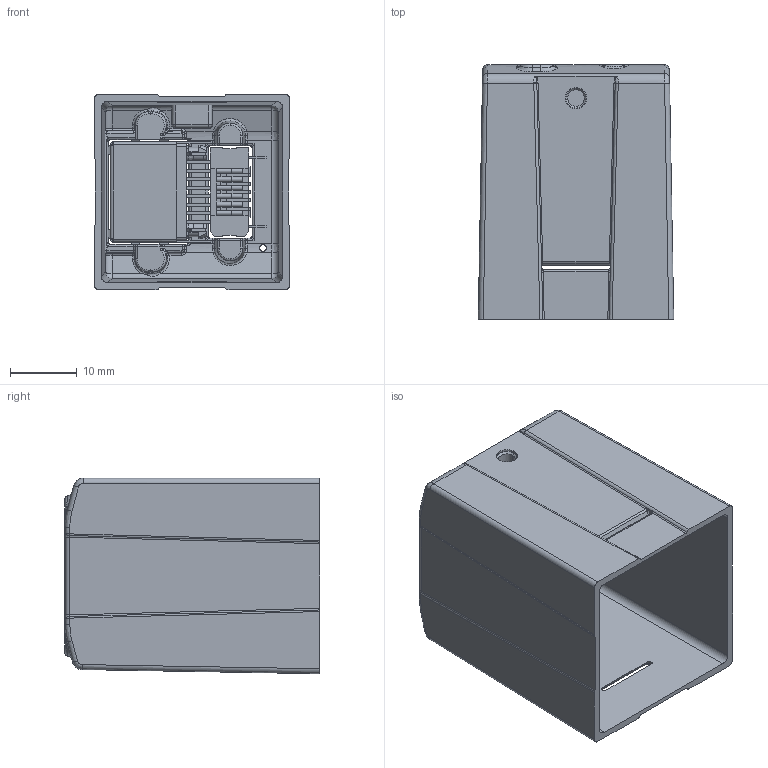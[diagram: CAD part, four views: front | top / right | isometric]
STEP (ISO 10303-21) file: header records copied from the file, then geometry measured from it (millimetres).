
FILE_DESCRIPTION (( 'STEP AP214' ), '1' );
FILE_NAME ('Alvium G5 Cover.STEP', '2021-10-20T13:29:22', ( '' ), ( '' ), 'SwSTEP 2.0', 'SolidWorks 2020', '' );
FILE_SCHEMA (( 'AUTOMOTIVE_DESIGN' ));
Length unit declared in the file: millimetre
Products named in the file (1): Alvium G5 Cover
Bounding box: 29.3 x 38.32 x 29.3 mm (x, y, z)
Volume: 6791.9 mm3; surface area: 12884.1 mm2
Topology: 4 solids, 6 shells, 1460 faces, 3900 edges, 2451 vertices
Faces by surface type: plane 819, cylinder 382, bspline 184, cone 29, sphere 28, torus 18
Entity records: 68411 total; most frequent: CARTESIAN_POINT 18039, ORIENTED_EDGE 7734, DIRECTION 6390, EDGE_CURVE 3867, VECTOR 2532, LINE 2532, VERTEX_POINT 2451, AXIS2_PLACEMENT_3D 1929
